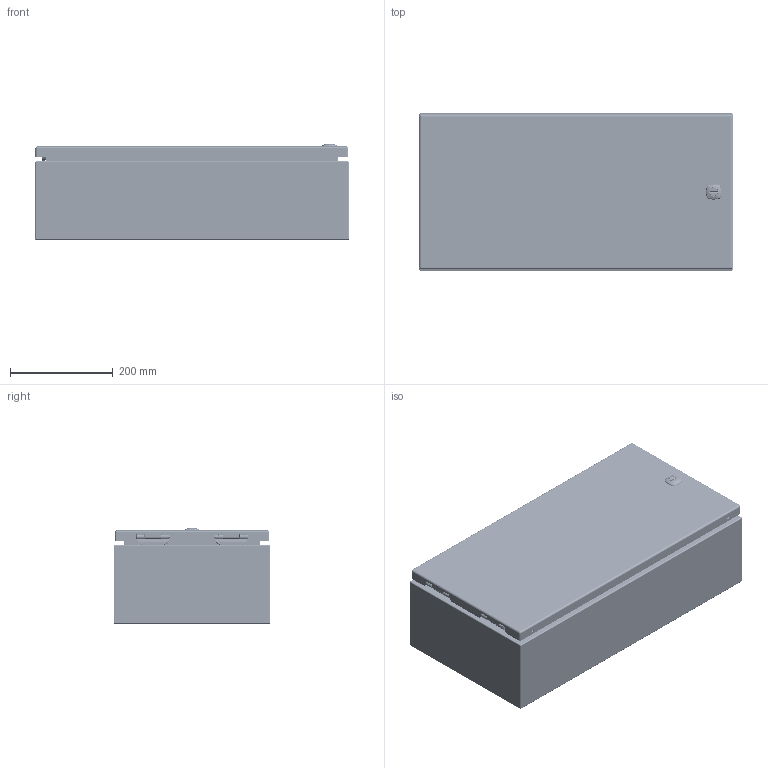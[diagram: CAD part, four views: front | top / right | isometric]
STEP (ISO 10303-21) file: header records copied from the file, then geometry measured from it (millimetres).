
FILE_DESCRIPTION(/* description */ ('5412ES 12" x 24" x 6" Assembly'),/* implementation_level */ '2;1');
FILE_NAME(/* name */ 'C:\Vault_Workspace\Inventor_Dwg\BoxCad\Result\5412ESB122406\e-mail\3D\5412ESB122406.stp',/* time_stamp */ '2022-03-11T13:05:46-05:00',/* author */ ('BoxCad'),/* organization */ (''),/* preprocessor_version */ 'ST-DEVELOPER v18.1',/* originating_system */ 'Autodesk Inventor 2020',/* authorisation */ '');
FILE_SCHEMA (('AUTOMOTIVE_DESIGN { 1 0 10303 214 3 1 1 }'));
Products named in the file (43): 5412ESB122406; 5412ESB122406B; 5412ESB122406B-P; STK-Q-16005; STUD_M6 x 16mm; STK-Q-07610; 881SP2412G; 881SP2412G-P; STK-Q-07310; 5412ESB122406C; 5412ESB122406C-P; 5412ESB122406G; STK-K-09800; STK-K-09800-2; STK-Q-33014; STK-Q-90398; STK-Q-40095; STK-Q-63410; STK-Q-16055; STK-Q-46020-12; STK-Q-07220-1; STK-Q-07220-2; STK-Q-07220-3; STK-Q-07220-4; STK-Q-07220-A; STK-Q-07220-B; STK-P-03820R; STK-S-00100; STK-A-880SCQ4-SL-1; STK-Q-78110; STK-Q-78120; STK-Q-78145; STK-Q-03200; STK-Q-78125; STK-Q-78141; STK-Q-90390; STK-Q-78160; STK-Q-04050-07; STK-Q-04050-07-2; STK-Q-04050-07-P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
Assembly tree (72 placements, depth 4):
  5412ESB122406
    5412ESB122406B
      5412ESB122406B-P
      STK-Q-16005  x4
      STK-P-03820R
      STUD_M6 x 16mm
    STK-Q-07610  x4
    881SP2412G
      881SP2412G-P
    STK-Q-07310  x4
    5412ESB122406C
      5412ESB122406C-P
      5412ESB122406G
      STK-K-09800
        STK-Q-33014
        STK-Q-90398
        STK-Q-40095  x2
        STK-Q-63410  x2
      STK-K-09800-2
        STK-Q-33014
        STK-Q-90398
        STK-Q-40095  x2
        STK-Q-63410  x2
      STK-Q-16055  x4
      STK-Q-46020-12  x2
      STK-Q-07220-1
        STK-Q-07220-A
        STK-Q-07220-B
      STK-Q-07220-2
        STK-Q-07220-A
        STK-Q-07220-B
      STK-Q-07220-3
        STK-Q-07220-A
        STK-Q-07220-B
      STK-Q-07220-4
        STK-Q-07220-A
        STK-Q-07220-B
      STK-P-03820R
      STK-S-00100
      STK-A-880SCQ4-SL-1
        STK-Q-78110
        STK-Q-78120
        STK-Q-78145
        STK-Q-03200
        STK-Q-78125
        STK-Q-78141
        STK-Q-90390
        STK-Q-78160
    STK-Q-04050-07
      STK-Q-04050-07-P
      STK-Q-04050-N
    STK-Q-04050-07-2
      STK-Q-04050-07-P
      STK-Q-04050-N
    STK-A-01800
    880 PP
Bounding box: 609.67 x 304.8 x 185.55 mm (x, y, z)
Volume: 1599172.2 mm3; surface area: 1987689.4 mm2
Topology: 56 solids, 56 shells, 8126 faces, 21974 edges, 13993 vertices
Faces by surface type: bspline 3057, cylinder 2202, plane 2048, torus 508, sphere 164, cone 147
Full cylindrical faces by diameter (mm): 0 x1, 0.75 x9, 0.762 x9, 1 x8, 1.1 x8, 3.2 x4, 4.191 x16, 4.5 x4, 4.521 x8, 4.75 x2, 4.85 x16, 4.95 x4, 5 x4, 5.1 x25, 5.156 x4, 5.6 x2, 5.9 x21, 6.015 x16, 6.65 x4, 6.8 x4, 6.85 x16, 7.3 x2, 7.366 x4, 7.9 x8, 8 x12, 8.382 x2, 9.5 x4, 9.6 x1, 9.906 x4, 10 x1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
Entity records: 151706 total; most frequent: CARTESIAN_POINT 63346, ORIENTED_EDGE 20326, DIRECTION 14525, EDGE_CURVE 10163, VERTEX_POINT 6427, AXIS2_PLACEMENT_3D 5294, EDGE_LOOP 4108, LINE 3937
